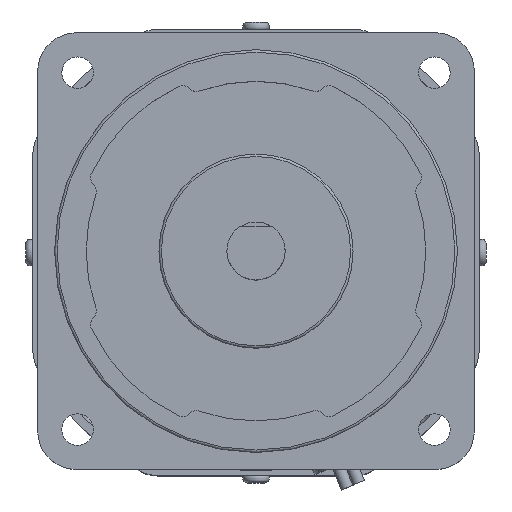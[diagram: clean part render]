
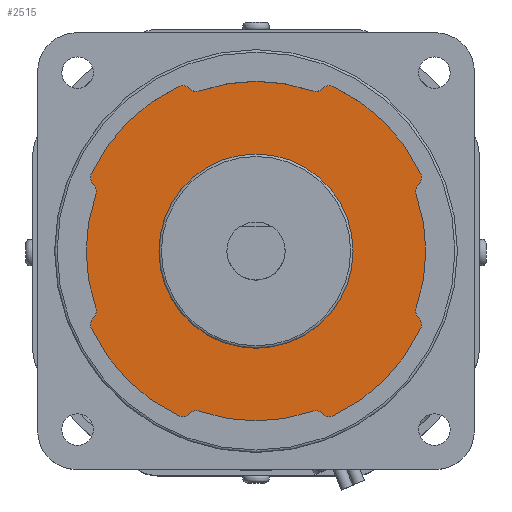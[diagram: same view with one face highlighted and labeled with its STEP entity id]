
A CAD part, top view. The second image highlights one B-rep face of the part: STEP entity #2515.
In plain terms, the highlighted planar face has unit normal (0, 0, 1).
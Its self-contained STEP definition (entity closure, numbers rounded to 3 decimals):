
#1196=CARTESIAN_POINT('',(20.0,0.,212.0));
#1197=VERTEX_POINT('',#1196);
#1198=CARTESIAN_POINT('',(0.,0.,212.0));
#1199=DIRECTION('',(0.0,0.0,-1.0));
#1200=DIRECTION('',(-1.0,0.0,0.0));
#1201=AXIS2_PLACEMENT_3D('',#1198,#1199,#1200);
#1202=CIRCLE('',#1201,20.0);
#1203=EDGE_CURVE('',#1197,#1197,#1202,.T.);
#1226=CARTESIAN_POINT('',(-13.722,-33.501,212.0));
#1227=VERTEX_POINT('',#1226);
#1243=CARTESIAN_POINT('',(-11.626,-33.013,212.0));
#1244=VERTEX_POINT('',#1243);
#1251=CARTESIAN_POINT('',(-12.291,-34.899,212.0));
#1252=DIRECTION('',(0.0,0.0,-1.0));
#1253=DIRECTION('',(-0.408,0.913,0.0));
#1254=AXIS2_PLACEMENT_3D('',#1251,#1252,#1253);
#1255=CIRCLE('',#1254,2.0);
#1256=EDGE_CURVE('',#1244,#1227,#1255,.F.);
#1276=CARTESIAN_POINT('',(11.626,-33.013,212.0));
#1277=VERTEX_POINT('',#1276);
#1284=CARTESIAN_POINT('',(0.,0.,212.0));
#1285=DIRECTION('',(0.,0.,1.0));
#1286=DIRECTION('',(-0.383,-0.924,0.));
#1287=AXIS2_PLACEMENT_3D('',#1284,#1285,#1286);
#1288=CIRCLE('',#1287,35.0);
#1289=EDGE_CURVE('',#1244,#1277,#1288,.T.);
#1299=CARTESIAN_POINT('',(13.722,-33.501,212.0));
#1300=VERTEX_POINT('',#1299);
#1309=CARTESIAN_POINT('',(12.291,-34.899,212.0));
#1310=DIRECTION('',(0.0,0.0,-1.0));
#1311=DIRECTION('',(0.408,0.913,0.0));
#1312=AXIS2_PLACEMENT_3D('',#1309,#1310,#1311);
#1313=CIRCLE('',#1312,2.0);
#1314=EDGE_CURVE('',#1300,#1277,#1313,.F.);
#1341=CARTESIAN_POINT('',(16.006,-33.913,212.0));
#1342=VERTEX_POINT('',#1341);
#1349=CARTESIAN_POINT('',(15.152,-32.104,212.0));
#1350=DIRECTION('',(0.0,0.0,1.0));
#1351=DIRECTION('',(0.715,0.699,0.0));
#1352=AXIS2_PLACEMENT_3D('',#1349,#1350,#1351);
#1353=CIRCLE('',#1352,2.);
#1354=EDGE_CURVE('',#1300,#1342,#1353,.T.);
#1365=CARTESIAN_POINT('',(33.913,-16.006,212.0));
#1366=VERTEX_POINT('',#1365);
#1375=CARTESIAN_POINT('',(0.,0.,212.0));
#1376=DIRECTION('',(0.,0.,1.0));
#1377=DIRECTION('',(0.383,-0.924,0.));
#1378=AXIS2_PLACEMENT_3D('',#1375,#1376,#1377);
#1379=CIRCLE('',#1378,37.5);
#1380=EDGE_CURVE('',#1342,#1366,#1379,.T.);
#1407=CARTESIAN_POINT('',(33.501,-13.722,212.0));
#1408=VERTEX_POINT('',#1407);
#1415=CARTESIAN_POINT('',(32.104,-15.152,212.0));
#1416=DIRECTION('',(0.0,0.0,1.0));
#1417=DIRECTION('',(-0.904,0.427,0.0));
#1418=AXIS2_PLACEMENT_3D('',#1415,#1416,#1417);
#1419=CIRCLE('',#1418,2.);
#1420=EDGE_CURVE('',#1366,#1408,#1419,.T.);
#1441=CARTESIAN_POINT('',(33.013,-11.626,212.0));
#1442=VERTEX_POINT('',#1441);
#1449=CARTESIAN_POINT('',(34.899,-12.291,212.0));
#1450=DIRECTION('',(0.0,0.0,-1.0));
#1451=DIRECTION('',(-0.913,-0.408,0.0));
#1452=AXIS2_PLACEMENT_3D('',#1449,#1450,#1451);
#1453=CIRCLE('',#1452,2.0);
#1454=EDGE_CURVE('',#1442,#1408,#1453,.F.);
#1464=CARTESIAN_POINT('',(33.013,11.626,212.0));
#1465=VERTEX_POINT('',#1464);
#1474=CARTESIAN_POINT('',(0.,0.,212.0));
#1475=DIRECTION('',(0.,0.,1.0));
#1476=DIRECTION('',(0.924,-0.383,0.));
#1477=AXIS2_PLACEMENT_3D('',#1474,#1475,#1476);
#1478=CIRCLE('',#1477,35.);
#1479=EDGE_CURVE('',#1442,#1465,#1478,.T.);
#1497=CARTESIAN_POINT('',(33.501,13.722,212.0));
#1498=VERTEX_POINT('',#1497);
#1507=CARTESIAN_POINT('',(34.899,12.291,212.0));
#1508=DIRECTION('',(0.0,0.0,-1.0));
#1509=DIRECTION('',(-0.913,0.408,0.0));
#1510=AXIS2_PLACEMENT_3D('',#1507,#1508,#1509);
#1511=CIRCLE('',#1510,2.0);
#1512=EDGE_CURVE('',#1498,#1465,#1511,.F.);
#1539=CARTESIAN_POINT('',(33.913,16.006,212.0));
#1540=VERTEX_POINT('',#1539);
#1547=CARTESIAN_POINT('',(32.104,15.152,212.0));
#1548=DIRECTION('',(0.0,0.0,1.0));
#1549=DIRECTION('',(-0.699,0.715,0.0));
#1550=AXIS2_PLACEMENT_3D('',#1547,#1548,#1549);
#1551=CIRCLE('',#1550,2.);
#1552=EDGE_CURVE('',#1498,#1540,#1551,.T.);
#1563=CARTESIAN_POINT('',(16.006,33.913,212.0));
#1564=VERTEX_POINT('',#1563);
#1573=CARTESIAN_POINT('',(0.,0.,212.0));
#1574=DIRECTION('',(0.,0.,1.0));
#1575=DIRECTION('',(0.924,0.383,0.));
#1576=AXIS2_PLACEMENT_3D('',#1573,#1574,#1575);
#1577=CIRCLE('',#1576,37.5);
#1578=EDGE_CURVE('',#1540,#1564,#1577,.T.);
#1605=CARTESIAN_POINT('',(13.722,33.501,212.0));
#1606=VERTEX_POINT('',#1605);
#1613=CARTESIAN_POINT('',(15.152,32.104,212.0));
#1614=DIRECTION('',(0.0,0.0,1.0));
#1615=DIRECTION('',(-0.427,-0.904,0.0));
#1616=AXIS2_PLACEMENT_3D('',#1613,#1614,#1615);
#1617=CIRCLE('',#1616,2.);
#1618=EDGE_CURVE('',#1564,#1606,#1617,.T.);
#1639=CARTESIAN_POINT('',(11.626,33.013,212.0));
#1640=VERTEX_POINT('',#1639);
#1647=CARTESIAN_POINT('',(12.291,34.899,212.0));
#1648=DIRECTION('',(0.0,0.0,-1.0));
#1649=DIRECTION('',(0.408,-0.913,0.0));
#1650=AXIS2_PLACEMENT_3D('',#1647,#1648,#1649);
#1651=CIRCLE('',#1650,2.0);
#1652=EDGE_CURVE('',#1640,#1606,#1651,.F.);
#1662=CARTESIAN_POINT('',(-11.626,33.013,212.0));
#1663=VERTEX_POINT('',#1662);
#1672=CARTESIAN_POINT('',(0.,0.,212.0));
#1673=DIRECTION('',(0.,0.,1.0));
#1674=DIRECTION('',(0.383,0.924,0.));
#1675=AXIS2_PLACEMENT_3D('',#1672,#1673,#1674);
#1676=CIRCLE('',#1675,35.0);
#1677=EDGE_CURVE('',#1640,#1663,#1676,.T.);
#1695=CARTESIAN_POINT('',(-13.722,33.501,212.0));
#1696=VERTEX_POINT('',#1695);
#1705=CARTESIAN_POINT('',(-12.291,34.899,212.0));
#1706=DIRECTION('',(0.0,0.0,-1.0));
#1707=DIRECTION('',(-0.408,-0.913,0.0));
#1708=AXIS2_PLACEMENT_3D('',#1705,#1706,#1707);
#1709=CIRCLE('',#1708,2.0);
#1710=EDGE_CURVE('',#1696,#1663,#1709,.F.);
#1737=CARTESIAN_POINT('',(-16.006,33.913,212.0));
#1738=VERTEX_POINT('',#1737);
#1745=CARTESIAN_POINT('',(-15.152,32.104,212.0));
#1746=DIRECTION('',(0.0,0.0,1.0));
#1747=DIRECTION('',(-0.715,-0.699,0.0));
#1748=AXIS2_PLACEMENT_3D('',#1745,#1746,#1747);
#1749=CIRCLE('',#1748,2.);
#1750=EDGE_CURVE('',#1696,#1738,#1749,.T.);
#1771=CARTESIAN_POINT('',(-33.913,16.006,212.0));
#1772=VERTEX_POINT('',#1771);
#1779=CARTESIAN_POINT('',(0.,0.,212.0));
#1780=DIRECTION('',(0.,0.,1.0));
#1781=DIRECTION('',(-0.383,0.924,0.));
#1782=AXIS2_PLACEMENT_3D('',#1779,#1780,#1781);
#1783=CIRCLE('',#1782,37.5);
#1784=EDGE_CURVE('',#1738,#1772,#1783,.T.);
#1803=CARTESIAN_POINT('',(-33.501,13.722,212.0));
#1804=VERTEX_POINT('',#1803);
#1811=CARTESIAN_POINT('',(-32.104,15.152,212.0));
#1812=DIRECTION('',(0.0,0.0,1.0));
#1813=DIRECTION('',(0.904,-0.427,0.0));
#1814=AXIS2_PLACEMENT_3D('',#1811,#1812,#1813);
#1815=CIRCLE('',#1814,2.);
#1816=EDGE_CURVE('',#1772,#1804,#1815,.T.);
#1837=CARTESIAN_POINT('',(-33.013,11.626,212.0));
#1838=VERTEX_POINT('',#1837);
#1845=CARTESIAN_POINT('',(-34.899,12.291,212.0));
#1846=DIRECTION('',(0.0,0.0,-1.0));
#1847=DIRECTION('',(0.913,0.408,0.0));
#1848=AXIS2_PLACEMENT_3D('',#1845,#1846,#1847);
#1849=CIRCLE('',#1848,2.0);
#1850=EDGE_CURVE('',#1838,#1804,#1849,.F.);
#1860=CARTESIAN_POINT('',(-33.013,-11.626,212.0));
#1861=VERTEX_POINT('',#1860);
#1870=CARTESIAN_POINT('',(0.,0.,212.0));
#1871=DIRECTION('',(0.,0.,1.0));
#1872=DIRECTION('',(-0.924,0.383,0.));
#1873=AXIS2_PLACEMENT_3D('',#1870,#1871,#1872);
#1874=CIRCLE('',#1873,35.0);
#1875=EDGE_CURVE('',#1838,#1861,#1874,.T.);
#1893=CARTESIAN_POINT('',(-33.501,-13.722,212.0));
#1894=VERTEX_POINT('',#1893);
#1903=CARTESIAN_POINT('',(-34.899,-12.291,212.0));
#1904=DIRECTION('',(0.0,0.0,-1.0));
#1905=DIRECTION('',(0.913,-0.408,0.0));
#1906=AXIS2_PLACEMENT_3D('',#1903,#1904,#1905);
#1907=CIRCLE('',#1906,2.0);
#1908=EDGE_CURVE('',#1894,#1861,#1907,.F.);
#1935=CARTESIAN_POINT('',(-33.913,-16.006,212.0));
#1936=VERTEX_POINT('',#1935);
#1943=CARTESIAN_POINT('',(-32.104,-15.152,212.0));
#1944=DIRECTION('',(0.0,0.0,1.0));
#1945=DIRECTION('',(0.699,-0.715,0.0));
#1946=AXIS2_PLACEMENT_3D('',#1943,#1944,#1945);
#1947=CIRCLE('',#1946,2.);
#1948=EDGE_CURVE('',#1894,#1936,#1947,.T.);
#1959=CARTESIAN_POINT('',(-16.006,-33.913,212.0));
#1960=VERTEX_POINT('',#1959);
#1969=CARTESIAN_POINT('',(0.,0.,212.0));
#1970=DIRECTION('',(0.,0.,1.0));
#1971=DIRECTION('',(-0.924,-0.383,0.));
#1972=AXIS2_PLACEMENT_3D('',#1969,#1970,#1971);
#1973=CIRCLE('',#1972,37.5);
#1974=EDGE_CURVE('',#1936,#1960,#1973,.T.);
#2000=CARTESIAN_POINT('',(-15.152,-32.104,212.0));
#2001=DIRECTION('',(0.0,0.0,1.0));
#2002=DIRECTION('',(0.427,0.904,0.0));
#2003=AXIS2_PLACEMENT_3D('',#2000,#2001,#2002);
#2004=CIRCLE('',#2003,2.);
#2005=EDGE_CURVE('',#1960,#1227,#2004,.T.);
#2481=CARTESIAN_POINT('',(0.,0.,212.0));
#2482=DIRECTION('',(0.0,0.0,1.0));
#2483=DIRECTION('',(1.0,0.0,0.0));
#2484=AXIS2_PLACEMENT_3D('',#2481,#2482,#2483);
#2485=PLANE('',#2484);
#2486=ORIENTED_EDGE('',*,*,#2005,.T.);
#2487=ORIENTED_EDGE('',*,*,#1256,.F.);
#2488=ORIENTED_EDGE('',*,*,#1289,.T.);
#2489=ORIENTED_EDGE('',*,*,#1314,.F.);
#2490=ORIENTED_EDGE('',*,*,#1354,.T.);
#2491=ORIENTED_EDGE('',*,*,#1380,.T.);
#2492=ORIENTED_EDGE('',*,*,#1420,.T.);
#2493=ORIENTED_EDGE('',*,*,#1454,.F.);
#2494=ORIENTED_EDGE('',*,*,#1479,.T.);
#2495=ORIENTED_EDGE('',*,*,#1512,.F.);
#2496=ORIENTED_EDGE('',*,*,#1552,.T.);
#2497=ORIENTED_EDGE('',*,*,#1578,.T.);
#2498=ORIENTED_EDGE('',*,*,#1618,.T.);
#2499=ORIENTED_EDGE('',*,*,#1652,.F.);
#2500=ORIENTED_EDGE('',*,*,#1677,.T.);
#2501=ORIENTED_EDGE('',*,*,#1710,.F.);
#2502=ORIENTED_EDGE('',*,*,#1750,.T.);
#2503=ORIENTED_EDGE('',*,*,#1784,.T.);
#2504=ORIENTED_EDGE('',*,*,#1816,.T.);
#2505=ORIENTED_EDGE('',*,*,#1850,.F.);
#2506=ORIENTED_EDGE('',*,*,#1875,.T.);
#2507=ORIENTED_EDGE('',*,*,#1908,.F.);
#2508=ORIENTED_EDGE('',*,*,#1948,.T.);
#2509=ORIENTED_EDGE('',*,*,#1974,.T.);
#2510=EDGE_LOOP('',(#2486,#2487,#2488,#2489,#2490,#2491,#2492,#2493,#2494,#2495,#2496,#2497,#2498,#2499,#2500,#2501,#2502,#2503,#2504,#2505,#2506,#2507,#2508,#2509));
#2511=FACE_OUTER_BOUND('',#2510,.T.);
#2512=ORIENTED_EDGE('',*,*,#1203,.T.);
#2513=EDGE_LOOP('',(#2512));
#2514=FACE_BOUND('',#2513,.T.);
#2515=ADVANCED_FACE('',(#2511,#2514),#2485,.T.);
